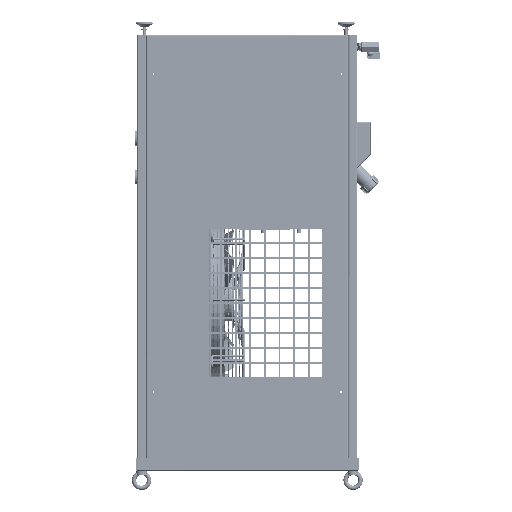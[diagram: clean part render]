
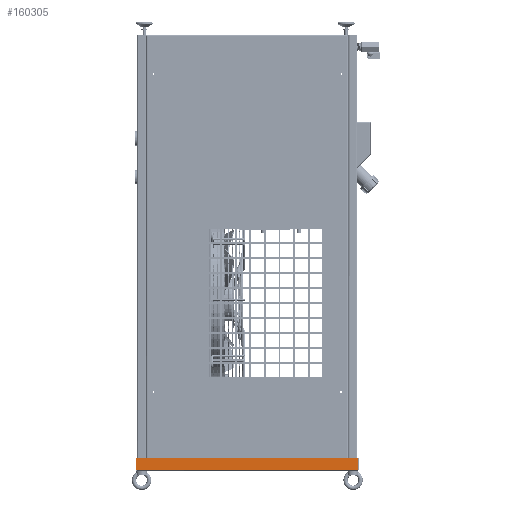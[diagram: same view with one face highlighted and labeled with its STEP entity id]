
A CAD part, left-side view. The second image highlights one B-rep face of the part: STEP entity #160305.
In plain terms, the highlighted planar face has unit normal (-1, 0, 0).
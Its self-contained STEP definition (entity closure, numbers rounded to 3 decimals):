
#12903 = DIRECTION ( 'NONE',  ( 0., 0., 1. ) ) ;
#16376 = ORIENTED_EDGE ( 'NONE', *, *, #240119, .T. ) ;
#25586 = EDGE_CURVE ( 'NONE', #370692, #304292, #192130, .T. ) ;
#26462 = CARTESIAN_POINT ( 'NONE',  ( -285., 260., 30. ) ) ;
#29042 = DIRECTION ( 'NONE',  ( 1., 0., 0. ) ) ;
#32891 = FACE_OUTER_BOUND ( 'NONE', #205270, .T. ) ;
#35907 = CARTESIAN_POINT ( 'NONE',  ( -285., 260., 2.4 ) ) ;
#43956 = DIRECTION ( 'NONE',  ( 0., 0., 1. ) ) ;
#44072 = VECTOR ( 'NONE', #151133, 1000. ) ;
#61804 = CARTESIAN_POINT ( 'NONE',  ( -285., -258.093, 30. ) ) ;
#67047 = DIRECTION ( 'NONE',  ( 0., 1., 0. ) ) ;
#71359 = LINE ( 'NONE', #190267, #144235 ) ;
#85101 = EDGE_CURVE ( 'NONE', #105266, #370692, #242420, .T. ) ;
#105266 = VERTEX_POINT ( 'NONE', #199375 ) ;
#144235 = VECTOR ( 'NONE', #12903, 1000. ) ;
#146016 = PLANE ( 'NONE',  #325637 ) ;
#151133 = DIRECTION ( 'NONE',  ( 0., 1., 0. ) ) ;
#151731 = ORIENTED_EDGE ( 'NONE', *, *, #85101, .F. ) ;
#159518 = ORIENTED_EDGE ( 'NONE', *, *, #25586, .F. ) ;
#160305 = ADVANCED_FACE ( 'NONE', ( #32891 ), #146016, .F. ) ;
#185828 = VERTEX_POINT ( 'NONE', #61804 ) ;
#190267 = CARTESIAN_POINT ( 'NONE',  ( -285., -258.093, 30. ) ) ;
#192130 = LINE ( 'NONE', #367387, #315474 ) ;
#199375 = CARTESIAN_POINT ( 'NONE',  ( -285., -258.093, 2.4 ) ) ;
#205270 = EDGE_LOOP ( 'NONE', ( #151731, #274968, #16376, #159518 ) ) ;
#240119 = EDGE_CURVE ( 'NONE', #185828, #304292, #357538, .T. ) ;
#242420 = LINE ( 'NONE', #35907, #318146 ) ;
#274968 = ORIENTED_EDGE ( 'NONE', *, *, #327822, .T. ) ;
#282824 = CARTESIAN_POINT ( 'NONE',  ( -285., 258.093, 30. ) ) ;
#295912 = DIRECTION ( 'NONE',  ( 0., 0., -1. ) ) ;
#304292 = VERTEX_POINT ( 'NONE', #282824 ) ;
#315474 = VECTOR ( 'NONE', #43956, 1000. ) ;
#318146 = VECTOR ( 'NONE', #67047, 1000. ) ;
#325637 = AXIS2_PLACEMENT_3D ( 'NONE', #354357, #29042, #295912 ) ;
#327822 = EDGE_CURVE ( 'NONE', #105266, #185828, #71359, .T. ) ;
#354357 = CARTESIAN_POINT ( 'NONE',  ( -285., 260., 30. ) ) ;
#356441 = CARTESIAN_POINT ( 'NONE',  ( -285., 258.093, 2.4 ) ) ;
#357538 = LINE ( 'NONE', #26462, #44072 ) ;
#367387 = CARTESIAN_POINT ( 'NONE',  ( -285., 258.093, 1.2 ) ) ;
#370692 = VERTEX_POINT ( 'NONE', #356441 ) ;
